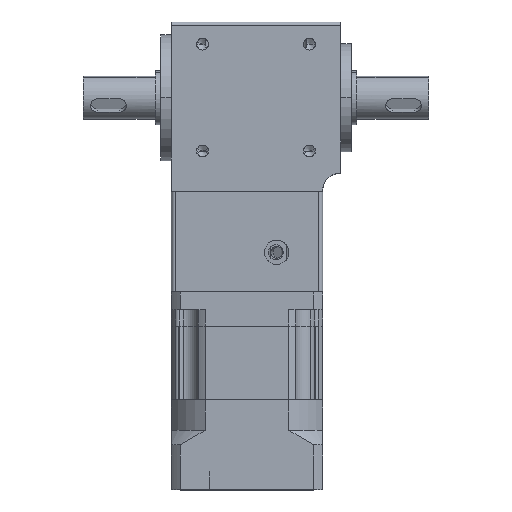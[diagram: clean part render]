
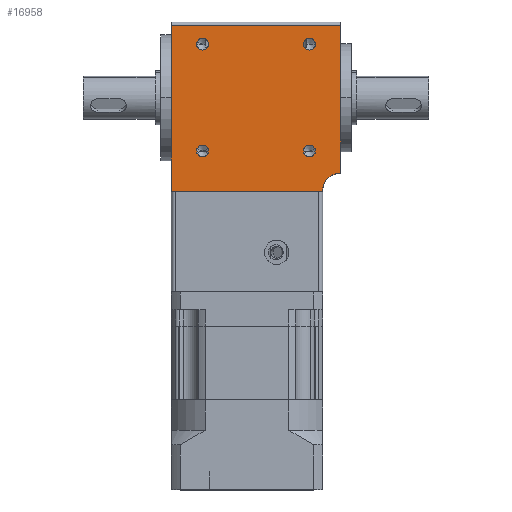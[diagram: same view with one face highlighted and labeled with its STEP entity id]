
A CAD part, top view. The second image highlights one B-rep face of the part: STEP entity #16958.
In plain terms, the highlighted planar face has unit normal (0, 0, 1).
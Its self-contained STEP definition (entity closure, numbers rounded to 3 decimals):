
#121 = ORIENTED_EDGE ( 'NONE', *, *, #10180, .F. ) ;
#844 = LINE ( 'NONE', #34630, #8510 ) ;
#1536 = EDGE_CURVE ( 'NONE', #6747, #28520, #4761, .T. ) ;
#1791 = EDGE_CURVE ( 'NONE', #4736, #29254, #19546, .T. ) ;
#2071 = DIRECTION ( 'NONE',  ( 1., 0., 0. ) ) ;
#2326 = DIRECTION ( 'NONE',  ( 0., 0., 1. ) ) ;
#2349 = VERTEX_POINT ( 'NONE', #24750 ) ;
#2373 = ORIENTED_EDGE ( 'NONE', *, *, #7558, .F. ) ;
#2398 = CIRCLE ( 'NONE', #23248, 1.65 ) ;
#2849 = ORIENTED_EDGE ( 'NONE', *, *, #1536, .F. ) ;
#2944 = ORIENTED_EDGE ( 'NONE', *, *, #13082, .F. ) ;
#2966 = CARTESIAN_POINT ( 'NONE',  ( 50., -23.5, 21. ) ) ;
#3369 = DIRECTION ( 'NONE',  ( 0., 1., 0. ) ) ;
#3378 = CARTESIAN_POINT ( 'NONE',  ( 10.001, 17.349, 21. ) ) ;
#3647 = FACE_BOUND ( 'NONE', #21833, .T. ) ;
#3676 = DIRECTION ( 'NONE',  ( -1., 0., 0. ) ) ;
#3855 = VECTOR ( 'NONE', #26403, 1000. ) ;
#4507 = CIRCLE ( 'NONE', #37115, 1.65 ) ;
#4736 = VERTEX_POINT ( 'NONE', #23435 ) ;
#4761 = LINE ( 'NONE', #23236, #3855 ) ;
#4993 = CARTESIAN_POINT ( 'NONE',  ( 42.999, 17.349, 21. ) ) ;
#5625 = CARTESIAN_POINT ( 'NONE',  ( 13.301, 17.349, 21. ) ) ;
#5899 = CARTESIAN_POINT ( 'NONE',  ( 41.349, -12.349, 21. ) ) ;
#5911 = VERTEX_POINT ( 'NONE', #4993 ) ;
#6384 = AXIS2_PLACEMENT_3D ( 'NONE', #30486, #13199, #33396 ) ;
#6483 = CIRCLE ( 'NONE', #31315, 5. ) ;
#6747 = VERTEX_POINT ( 'NONE', #29845 ) ;
#7173 = DIRECTION ( 'NONE',  ( 0., 0., -1. ) ) ;
#7558 = EDGE_CURVE ( 'NONE', #33901, #9615, #12661, .T. ) ;
#7720 = DIRECTION ( 'NONE',  ( 0., 0., 1. ) ) ;
#7851 = VERTEX_POINT ( 'NONE', #13605 ) ;
#7890 = EDGE_CURVE ( 'NONE', #17483, #17869, #35227, .T. ) ;
#8120 = CARTESIAN_POINT ( 'NONE',  ( 50., -18.5, 21. ) ) ;
#8510 = VECTOR ( 'NONE', #3369, 1000. ) ;
#8704 = CIRCLE ( 'NONE', #6384, 1.65 ) ;
#8815 = DIRECTION ( 'NONE',  ( 1., 0., 0. ) ) ;
#9361 = AXIS2_PLACEMENT_3D ( 'NONE', #28880, #11614, #31771 ) ;
#9375 = DIRECTION ( 'NONE',  ( 0., 0., 1. ) ) ;
#9615 = VERTEX_POINT ( 'NONE', #8120 ) ;
#10180 = EDGE_CURVE ( 'NONE', #28520, #12242, #844, .T. ) ;
#10543 = ORIENTED_EDGE ( 'NONE', *, *, #30868, .F. ) ;
#10726 = CARTESIAN_POINT ( 'NONE',  ( 50., 22.5, 21. ) ) ;
#11614 = DIRECTION ( 'NONE',  ( 0., 0., 1. ) ) ;
#12242 = VERTEX_POINT ( 'NONE', #36912 ) ;
#12661 = LINE ( 'NONE', #2966, #27108 ) ;
#12788 = PLANE ( 'NONE',  #34325 ) ;
#13082 = EDGE_CURVE ( 'NONE', #29254, #4736, #34491, .T. ) ;
#13108 = CARTESIAN_POINT ( 'NONE',  ( 11.651, -12.349, 21. ) ) ;
#13199 = DIRECTION ( 'NONE',  ( 0., 0., 1. ) ) ;
#13605 = CARTESIAN_POINT ( 'NONE',  ( 10.001, -12.349, 21. ) ) ;
#14792 = AXIS2_PLACEMENT_3D ( 'NONE', #26634, #9375, #29551 ) ;
#14914 = ORIENTED_EDGE ( 'NONE', *, *, #7890, .F. ) ;
#15073 = CARTESIAN_POINT ( 'NONE',  ( 39.699, 17.349, 21. ) ) ;
#15964 = DIRECTION ( 'NONE',  ( 1., 0., 0. ) ) ;
#16958 = ADVANCED_FACE ( 'NONE', ( #33386, #3647, #25704, #19817, #18011 ), #12788, .F. ) ;
#17483 = VERTEX_POINT ( 'NONE', #3378 ) ;
#17721 = ORIENTED_EDGE ( 'NONE', *, *, #1791, .F. ) ;
#17869 = VERTEX_POINT ( 'NONE', #5625 ) ;
#18011 = FACE_OUTER_BOUND ( 'NONE', #22830, .T. ) ;
#18048 = VERTEX_POINT ( 'NONE', #15073 ) ;
#18227 = EDGE_CURVE ( 'NONE', #2349, #7851, #8704, .T. ) ;
#18546 = CARTESIAN_POINT ( 'NONE',  ( 53., -23.5, 21. ) ) ;
#19236 = DIRECTION ( 'NONE',  ( 0., 0., 1. ) ) ;
#19536 = CARTESIAN_POINT ( 'NONE',  ( 11.651, 17.349, 21. ) ) ;
#19546 = CIRCLE ( 'NONE', #36253, 1.65 ) ;
#19817 = FACE_BOUND ( 'NONE', #28722, .T. ) ;
#20158 = DIRECTION ( 'NONE',  ( 0., -1., 0. ) ) ;
#20517 = LINE ( 'NONE', #20916, #27312 ) ;
#20830 = ORIENTED_EDGE ( 'NONE', *, *, #27235, .F. ) ;
#20916 = CARTESIAN_POINT ( 'NONE',  ( 53., 22.5, 21. ) ) ;
#21601 = DIRECTION ( 'NONE',  ( 1., 0., 0. ) ) ;
#21739 = DIRECTION ( 'NONE',  ( 0., 0., 1. ) ) ;
#21833 = EDGE_LOOP ( 'NONE', ( #17721, #2944 ) ) ;
#21864 = CARTESIAN_POINT ( 'NONE',  ( 41.349, -12.349, 21. ) ) ;
#22427 = DIRECTION ( 'NONE',  ( 1., 0., 0. ) ) ;
#22629 = CARTESIAN_POINT ( 'NONE',  ( 39.699, -12.349, 21. ) ) ;
#22830 = EDGE_LOOP ( 'NONE', ( #2373, #35768, #121, #2849, #37105 ) ) ;
#23220 = EDGE_CURVE ( 'NONE', #7851, #2349, #2398, .T. ) ;
#23236 = CARTESIAN_POINT ( 'NONE',  ( 53., -23.5, 21. ) ) ;
#23248 = AXIS2_PLACEMENT_3D ( 'NONE', #13108, #33307, #15964 ) ;
#23435 = CARTESIAN_POINT ( 'NONE',  ( 42.999, -12.349, 21. ) ) ;
#23502 = CIRCLE ( 'NONE', #14792, 1.65 ) ;
#24076 = ORIENTED_EDGE ( 'NONE', *, *, #25777, .F. ) ;
#24750 = CARTESIAN_POINT ( 'NONE',  ( 13.301, -12.349, 21. ) ) ;
#24956 = CARTESIAN_POINT ( 'NONE',  ( 11.651, 17.349, 21. ) ) ;
#25704 = FACE_BOUND ( 'NONE', #29368, .T. ) ;
#25777 = EDGE_CURVE ( 'NONE', #5911, #18048, #23502, .T. ) ;
#26025 = DIRECTION ( 'NONE',  ( 0., 0., 1. ) ) ;
#26293 = AXIS2_PLACEMENT_3D ( 'NONE', #19536, #2326, #22427 ) ;
#26403 = DIRECTION ( 'NONE',  ( -1., 0., 0. ) ) ;
#26634 = CARTESIAN_POINT ( 'NONE',  ( 41.349, 17.349, 21. ) ) ;
#27108 = VECTOR ( 'NONE', #20158, 1000. ) ;
#27235 = EDGE_CURVE ( 'NONE', #17869, #17483, #4507, .T. ) ;
#27304 = DIRECTION ( 'NONE',  ( -1., 0., 0. ) ) ;
#27312 = VECTOR ( 'NONE', #3676, 1000. ) ;
#27834 = DIRECTION ( 'NONE',  ( 1., 0., 0. ) ) ;
#28007 = ORIENTED_EDGE ( 'NONE', *, *, #18227, .F. ) ;
#28096 = CIRCLE ( 'NONE', #9361, 1.65 ) ;
#28520 = VERTEX_POINT ( 'NONE', #36655 ) ;
#28722 = EDGE_LOOP ( 'NONE', ( #20830, #14914 ) ) ;
#28880 = CARTESIAN_POINT ( 'NONE',  ( 41.349, 17.349, 21. ) ) ;
#29254 = VERTEX_POINT ( 'NONE', #22629 ) ;
#29368 = EDGE_LOOP ( 'NONE', ( #28007, #31630 ) ) ;
#29551 = DIRECTION ( 'NONE',  ( 1., 0., 0. ) ) ;
#29845 = CARTESIAN_POINT ( 'NONE',  ( 45., -23.5, 21. ) ) ;
#30218 = EDGE_LOOP ( 'NONE', ( #24076, #10543 ) ) ;
#30486 = CARTESIAN_POINT ( 'NONE',  ( 11.651, -12.349, 21. ) ) ;
#30868 = EDGE_CURVE ( 'NONE', #18048, #5911, #28096, .T. ) ;
#31315 = AXIS2_PLACEMENT_3D ( 'NONE', #36574, #19236, #2071 ) ;
#31630 = ORIENTED_EDGE ( 'NONE', *, *, #23220, .F. ) ;
#31771 = DIRECTION ( 'NONE',  ( 1., 0., 0. ) ) ;
#32051 = AXIS2_PLACEMENT_3D ( 'NONE', #5899, #26025, #8815 ) ;
#33307 = DIRECTION ( 'NONE',  ( 0., 0., 1. ) ) ;
#33386 = FACE_BOUND ( 'NONE', #30218, .T. ) ;
#33396 = DIRECTION ( 'NONE',  ( 1., 0., 0. ) ) ;
#33901 = VERTEX_POINT ( 'NONE', #10726 ) ;
#34325 = AXIS2_PLACEMENT_3D ( 'NONE', #18546, #7173, #27304 ) ;
#34372 = EDGE_CURVE ( 'NONE', #33901, #12242, #20517, .T. ) ;
#34491 = CIRCLE ( 'NONE', #32051, 1.65 ) ;
#34630 = CARTESIAN_POINT ( 'NONE',  ( 3., -23.5, 21. ) ) ;
#35227 = CIRCLE ( 'NONE', #26293, 1.65 ) ;
#35768 = ORIENTED_EDGE ( 'NONE', *, *, #34372, .T. ) ;
#36253 = AXIS2_PLACEMENT_3D ( 'NONE', #21864, #21739, #21601 ) ;
#36574 = CARTESIAN_POINT ( 'NONE',  ( 50., -23.5, 21. ) ) ;
#36655 = CARTESIAN_POINT ( 'NONE',  ( 3., -23.5, 21. ) ) ;
#36804 = EDGE_CURVE ( 'NONE', #9615, #6747, #6483, .T. ) ;
#36912 = CARTESIAN_POINT ( 'NONE',  ( 3., 22.5, 21. ) ) ;
#37105 = ORIENTED_EDGE ( 'NONE', *, *, #36804, .F. ) ;
#37115 = AXIS2_PLACEMENT_3D ( 'NONE', #24956, #7720, #27834 ) ;
